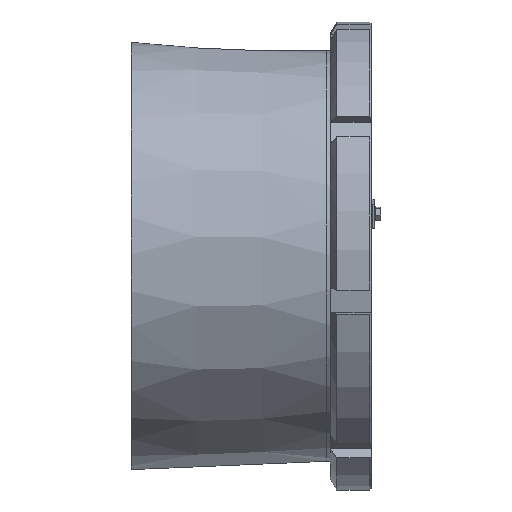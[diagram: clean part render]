
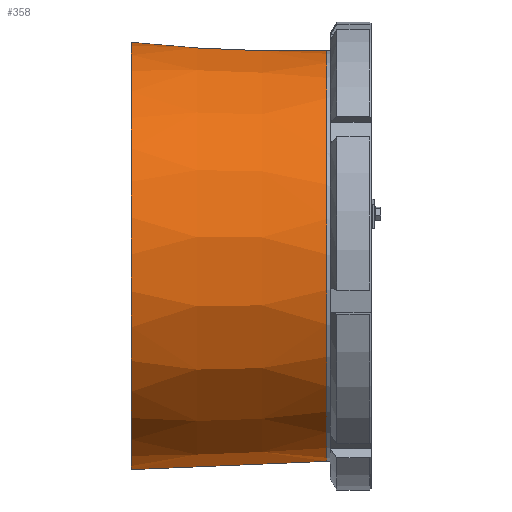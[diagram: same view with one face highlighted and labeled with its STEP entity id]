
A CAD part, top view. The second image highlights one B-rep face of the part: STEP entity #358.
In plain terms, the highlighted conical face has half-angle 2.426 degrees and reference radius 500 mm.
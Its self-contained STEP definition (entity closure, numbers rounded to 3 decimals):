
#358 = ADVANCED_FACE( '', ( #766 ), #767, .T. );
#766 = FACE_OUTER_BOUND( '', #1478, .T. );
#767 = CONICAL_SURFACE( '', #1479, 500., 0.042 );
#1478 = EDGE_LOOP( '', ( #2627, #2628, #2629, #2630 ) );
#1479 = AXIS2_PLACEMENT_3D( '', #2631, #2632, #2633 );
#2627 = ORIENTED_EDGE( '', *, *, #4854, .F. );
#2628 = ORIENTED_EDGE( '', *, *, #4884, .F. );
#2629 = ORIENTED_EDGE( '', *, *, #4885, .T. );
#2630 = ORIENTED_EDGE( '', *, *, #4886, .T. );
#2631 = CARTESIAN_POINT( '', ( -108., 0., 0. ) );
#2632 = DIRECTION( '', ( -1., 0., 0. ) );
#2633 = DIRECTION( '', ( 0., 0., 1. ) );
#4854 = EDGE_CURVE( '', #5806, #5808, #5809, .T. );
#4884 = EDGE_CURVE( '', #5856, #5806, #5857, .T. );
#4885 = EDGE_CURVE( '', #5856, #5858, #5859, .T. );
#4886 = EDGE_CURVE( '', #5858, #5808, #5860, .T. );
#5806 = VERTEX_POINT( '', #7343 );
#5808 = VERTEX_POINT( '', #7346 );
#5809 = B_SPLINE_CURVE_WITH_KNOTS( '', 3, ( #7347, #7348, #7349, #7350, #7351, #7352, #7353 ), .UNSPECIFIED., .F., .F., ( 4, 3, 4 ), ( 0.579, 0.993, 1.055 ), .UNSPECIFIED. );
#5856 = VERTEX_POINT( '', #7425 );
#5857 = CIRCLE( '', #7426, 500. );
#5858 = VERTEX_POINT( '', #7427 );
#5859 = B_SPLINE_CURVE_WITH_KNOTS( '', 3, ( #7428, #7429, #7430, #7431, #7432, #7433, #7434 ), .UNSPECIFIED., .F., .F., ( 4, 3, 4 ), ( 0.579, 0.993, 1.055 ), .UNSPECIFIED. );
#5860 = CIRCLE( '', #7435, 520.167 );
#7343 = CARTESIAN_POINT( '', ( -108., -499.964, 6. ) );
#7346 = CARTESIAN_POINT( '', ( -584., -520.132, 6. ) );
#7347 = CARTESIAN_POINT( '', ( -108., -499.964, 6. ) );
#7348 = CARTESIAN_POINT( '', ( -245.953, -505.809, 6. ) );
#7349 = CARTESIAN_POINT( '', ( -383.905, -511.654, 6. ) );
#7350 = CARTESIAN_POINT( '', ( -521.858, -517.499, 6. ) );
#7351 = CARTESIAN_POINT( '', ( -542.572, -518.377, 6. ) );
#7352 = CARTESIAN_POINT( '', ( -563.286, -519.254, 6. ) );
#7353 = CARTESIAN_POINT( '', ( -584., -520.132, 6. ) );
#7425 = CARTESIAN_POINT( '', ( -108., -499.964, -6. ) );
#7426 = AXIS2_PLACEMENT_3D( '', #9432, #9433, #9434 );
#7427 = CARTESIAN_POINT( '', ( -584., -520.132, -6. ) );
#7428 = CARTESIAN_POINT( '', ( -108., -499.964, -6. ) );
#7429 = CARTESIAN_POINT( '', ( -245.953, -505.809, -6. ) );
#7430 = CARTESIAN_POINT( '', ( -383.905, -511.654, -6. ) );
#7431 = CARTESIAN_POINT( '', ( -521.858, -517.499, -6. ) );
#7432 = CARTESIAN_POINT( '', ( -542.572, -518.377, -6. ) );
#7433 = CARTESIAN_POINT( '', ( -563.286, -519.254, -6. ) );
#7434 = CARTESIAN_POINT( '', ( -584., -520.132, -6. ) );
#7435 = AXIS2_PLACEMENT_3D( '', #9435, #9436, #9437 );
#9432 = CARTESIAN_POINT( '', ( -108., 0., 0. ) );
#9433 = DIRECTION( '', ( 1., 0., 0. ) );
#9434 = DIRECTION( '', ( 0., 0., -1. ) );
#9435 = CARTESIAN_POINT( '', ( -584., 0., 0. ) );
#9436 = DIRECTION( '', ( 1., 0., 0. ) );
#9437 = DIRECTION( '', ( 0., 0., -1. ) );
